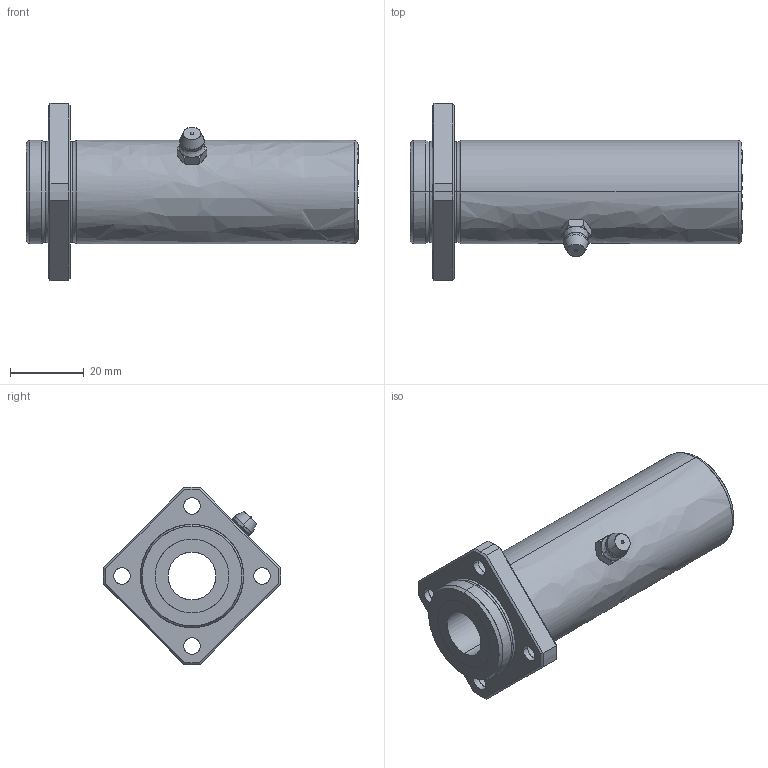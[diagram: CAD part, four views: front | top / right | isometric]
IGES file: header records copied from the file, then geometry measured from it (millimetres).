
Global section: file name: No Iges File Name specified; native system: AutoDesk Inventor R10; preprocessor: AutoDesk Inventor Iges Exporter R10; author: No Author specified; organization: No Organization specified; date: 20101211.163632; units: millimetre
Bounding box: 90 x 48 x 48 mm (x, y, z)
Surface area: 14840.9 mm2 (no closed solid volume)
Topology: 0 solids, 0 shells, 116 faces, 709 edges, 707 vertices
Faces by surface type: bspline 116
